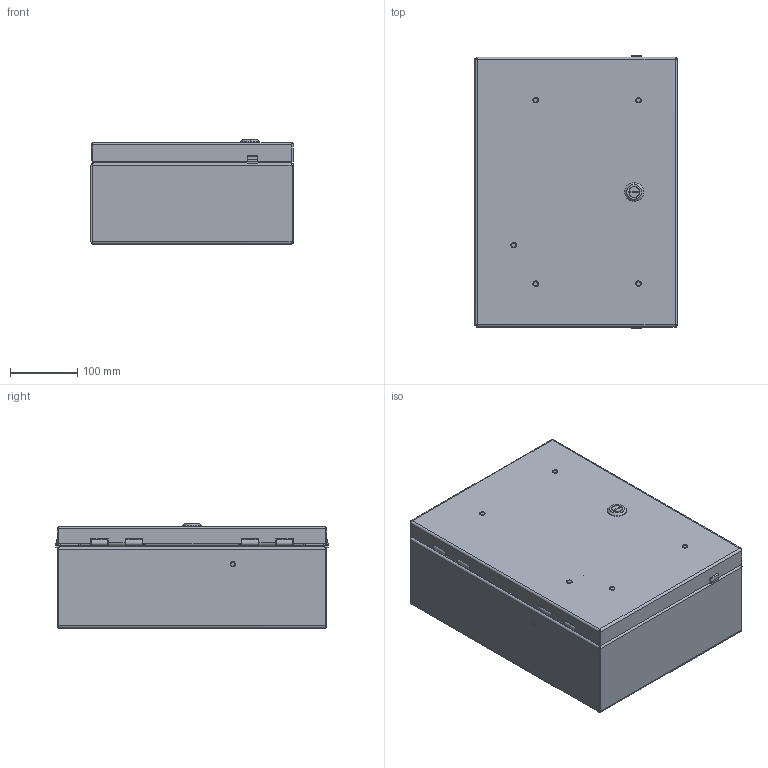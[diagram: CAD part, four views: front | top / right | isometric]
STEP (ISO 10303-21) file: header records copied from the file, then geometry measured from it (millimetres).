
FILE_DESCRIPTION (( 'STEP AP203' ), '1' );
FILE_NAME ('ecl403015.STEP', '2013-09-06T15:14:13', ( 'User' ), ( 'Pentair Inc' ), 'SwSTEP 2.0', 'SolidWorks 2010', '' );
FILE_SCHEMA (( 'CONFIG_CONTROL_DESIGN' ));
Products named in the file (35): 99411940_99411940; 89051705; 64138001; 87780048; 87554966_OPEN; 87960059_Default 14 ga; 87956873; 87956874; 31122001_31122001; 99407583; 87956867; 99405181; 87956872; 87956875; 99411089; 99411839_99411839; 87554494; 87793415_87793415; 87550792_87550792; 87550790_87550790; 87550851; 89051038; 99415969_99415969; 99417109_PEM CLS-M5-2 ---N; 87550791_87550791; ecl403015; 89051918; 89052999; 87554437; 87554978_PEM HFHS-M6-15 ---N; 87554969; 89051748; 89051725; 87554451; 87554979_87554979
Assembly tree (51 placements, depth 5):
  ecl403015
    87793415_87793415
    87550851  x2
      99415969_99415969
      89051038
      99417109_PEM CLS-M5-2 ---N
    87550791_87550791  x2
    89051918
      87554969  x4
      89052999
        99411940_99411940
        87554437
        87554978_PEM HFHS-M6-15 ---N  x4
    87550790_87550790  x2
    89051748
      64138001  x2
      89051725
        87554979_87554979  x4
        87554451
        99411940_99411940
      87554494
      99411839_99411839  x2
      89051705
      87780048
      87554966_OPEN
        99411089
        99407583
          87956875
          87956872
          99405181
          87956867
        87960059_Default 14 ga
          87956874
          87956873
          31122001_31122001
    87550792_87550792  x2
Bounding box: 300.7 x 404.06 x 154.38 mm (x, y, z)
Volume: 1199014.2 mm3; surface area: 1150043.4 mm2
Topology: 46 solids, 46 shells, 2877 faces, 7507 edges, 4814 vertices
Faces by surface type: plane 1690, cylinder 752, cone 277, bspline 82, torus 60, sphere 16
Entity records: 57320 total; most frequent: CARTESIAN_POINT 15475, ORIENTED_EDGE 7932, DIRECTION 7696, EDGE_CURVE 3966, AXIS2_PLACEMENT_3D 2648, VERTEX_POINT 2510, LINE 2400, VECTOR 2400
